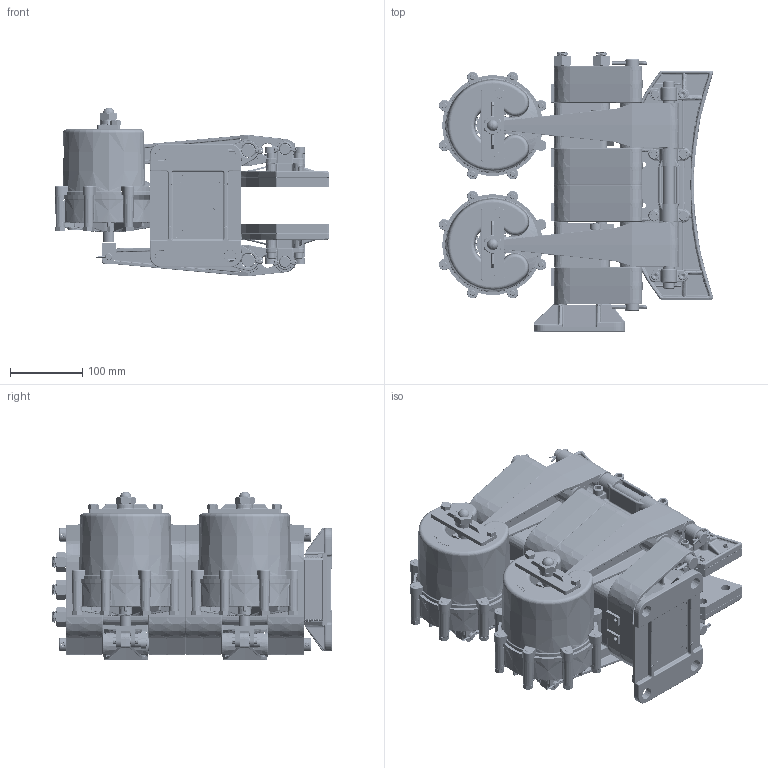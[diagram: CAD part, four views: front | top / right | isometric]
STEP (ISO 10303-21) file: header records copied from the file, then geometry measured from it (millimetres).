
FILE_DESCRIPTION (( 'STEP AP214' ), '1' );
FILE_NAME ('5022-SA-RH.STEP', '2016-06-02T17:28:35', ( 'User' ), ( 'Microsoft' ), 'SwSTEP 2.0', 'SolidWorks 2015', '' );
FILE_SCHEMA (( 'AUTOMOTIVE_DESIGN' ));
Length unit declared in the file: inch
Products named in the file (1): 5022-SA-RH
Bounding box: 380.38 x 387.35 x 234.08 mm (x, y, z)
Surface area: 1163169.9 mm2 (no closed solid volume)
Topology: 0 solids, 198 shells, 5477 faces, 17757 edges, 11760 vertices
Faces by surface type: cylinder 1563, plane 1351, bspline 925, cone 868, torus 738, sphere 32
Entity records: 348316 total; most frequent: CARTESIAN_POINT 138590, ORIENTED_EDGE 27881, DIRECTION 26950, EDGE_CURVE 17663, VERTEX_POINT 11760, AXIS2_PLACEMENT_3D 10810, CIRCLE 6257, EDGE_LOOP 5917
